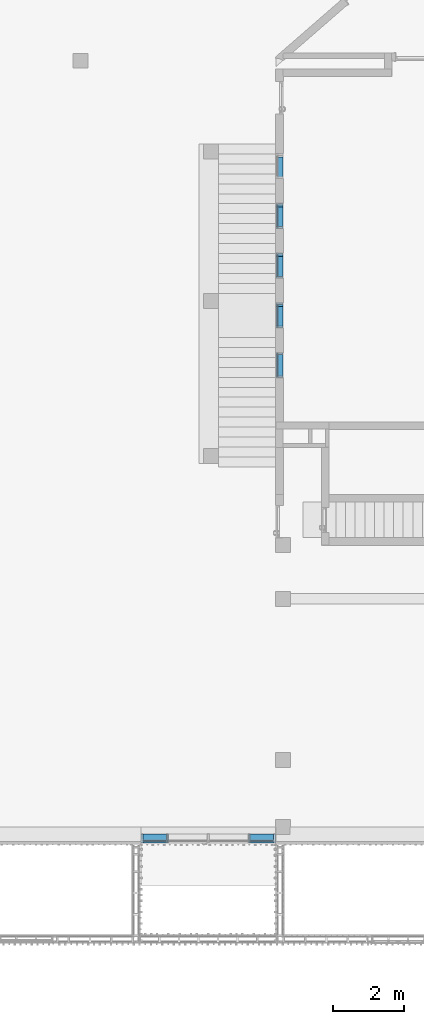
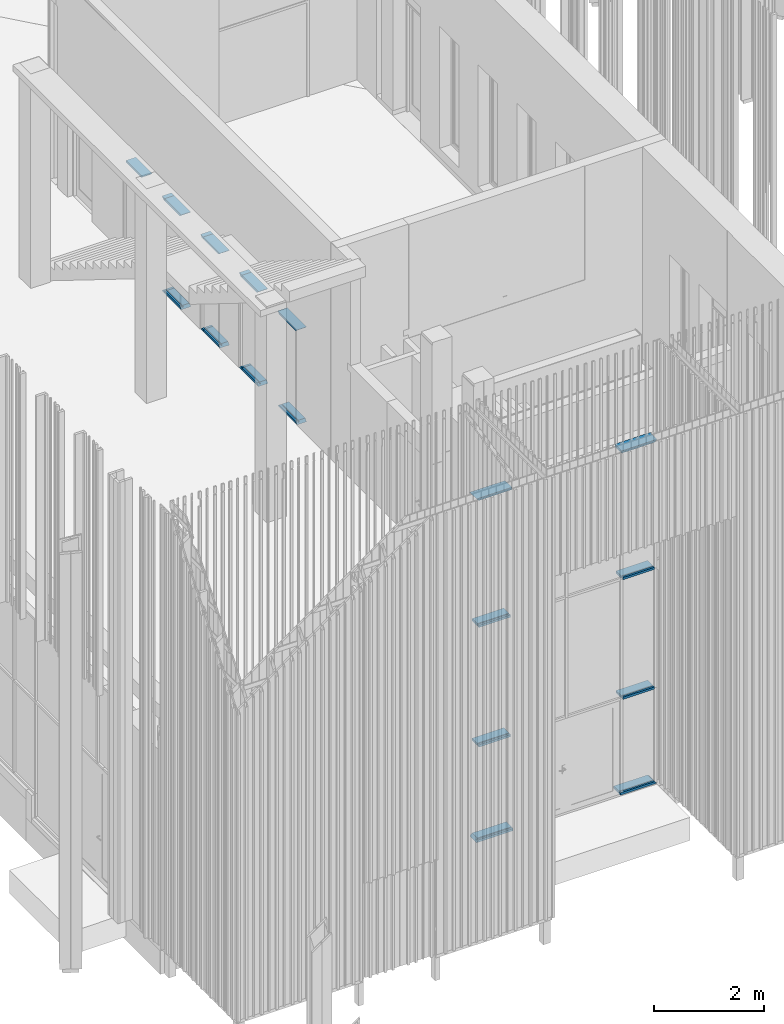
# One storey, part 64 of 390: 23 discrete accessories, 6 elements without a shape of their own.
"""IFC2X3 building model written with IfcOpenShell, lengths in millimetres."""

from ifc_helpers import new_model, entity, si_unit, converted_unit, derived_unit, money_unit, direction, frame, origin_with_axes, place, context, subcontext, project, spatial, polyline, outline, extrude, clip, halfspace, material, material_list, type_object, element, aggregate, save


model = new_model("IFC2X3")

# Units and contexts
model_context = context("Model", 3, precision=1e-05, world=origin_with_axes(), true_north=direction((0.0, 1.0)))
body_context = subcontext(model_context, "Body", "Model", "MODEL_VIEW")
ifc_project = project(units=[si_unit("LENGTHUNIT", "METRE", prefix="MILLI"), si_unit("AREAUNIT", "SQUARE_METRE"), si_unit("VOLUMEUNIT", "CUBIC_METRE"), converted_unit("PLANEANGLEUNIT", "DEGREE", entity("IfcPlaneAngleMeasure", 0.0174532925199), si_unit("PLANEANGLEUNIT", "RADIAN"), dimensions=[0, 0, 0, 0, 0, 0, 0]), si_unit("SOLIDANGLEUNIT", "STERADIAN"), money_unit("EUR"), converted_unit("TIMEUNIT", "Year", entity("IfcTimeMeasure", 31556926.0), si_unit("TIMEUNIT", "SECOND"), dimensions=[0, 0, 1, 0, 0, 0, 0]), si_unit("MASSUNIT", "GRAM", prefix="KILO"), si_unit("THERMODYNAMICTEMPERATUREUNIT", "DEGREE_CELSIUS"), si_unit("LUMINOUSINTENSITYUNIT", "LUMEN"), si_unit("ENERGYUNIT", "JOULE", prefix="MEGA"), derived_unit("THERMALCONDUCTANCEUNIT", [(si_unit("POWERUNIT", "WATT"), 1), (si_unit("LENGTHUNIT", "METRE"), -1), (si_unit("THERMODYNAMICTEMPERATUREUNIT", "KELVIN"), -1)]), derived_unit("SPECIFICHEATCAPACITYUNIT", [(si_unit("ENERGYUNIT", "JOULE"), 1), (si_unit("MASSUNIT", "GRAM", prefix="KILO"), -1), (si_unit("THERMODYNAMICTEMPERATUREUNIT", "KELVIN"), -1)]), derived_unit("MASSDENSITYUNIT", [(si_unit("MASSUNIT", "GRAM", prefix="KILO"), 1), (si_unit("VOLUMEUNIT", "CUBIC_METRE"), -1)])], contexts=[model_context])

# Site, building, storey
site_placement = place(None, origin_with_axes())
site = spatial("IfcSite", under=ifc_project, at=site_placement, Name="Site", CompositionType="ELEMENT")
building_placement = place(site_placement, origin_with_axes())
building = spatial("IfcBuilding", under=site, at=building_placement, Name="Building", CompositionType="ELEMENT")
storey_placement = place(building_placement, origin_with_axes())
storey = spatial("IfcBuildingStorey", under=building, at=storey_placement, Name="1 korrus", CompositionType="ELEMENT", Elevation=0.0)

# Curtain wall, discrete accessories
curtain_wall_type_1 = type_object("IfcCurtainWallType", Name="KS-17", PredefinedType="NOTDEFINED")
curtain_wall_1_placement = place(storey_placement, frame((132939.999926, 58740.0585192, 0.0), z_axis=(0.0, 0.0, 1.0), x_axis=(1.0, 0.0, 0.0)))
curtain_wall_1 = element("IfcCurtainWall", 1, at=curtain_wall_1_placement, inside=storey, type_object=curtain_wall_type_1, Name="Klaas-sein")
ifc_material = material(Name="Aluminium MUST")
ifc_material_list_1 = material_list([ifc_material, ifc_material, ifc_material])
discrete_accessory_type_1 = type_object("IfcDiscreteAccessoryType", Name="50 x 200")
discrete_accessory_1_placement = place(curtain_wall_1_placement, frame((1.81898940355e-09, -349.999988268, 2100.0), z_axis=(0.0, 1.0, 0.0), x_axis=(0.0, 0.0, -1.0)))
discrete_accessory_1 = element("IfcDiscreteAccessory", 2, at=discrete_accessory_1_placement, type_object=discrete_accessory_type_1, material=ifc_material_list_1, Name="KS-17 profiil", context=body_context, shape_type="Clipping", body=[
    clip(clip(extrude(outline(polyline([(9.99999999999, 25.0), (-10.0, 25.0), (-9.99999999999, 0.0), (9.99999999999, 0.0), (9.99999999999, 25.0)])), frame((0.0, 0.0, 0.0), z_axis=(0.0, 0.0, 1.0), x_axis=(0.0, -1.0, 0.0)), (0.0, 0.0, 1.0), 699.999990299), halfspace(frame((349.99999515, 0.0, 349.99999515), z_axis=(-0.707106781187, 0.0, -0.707106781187), x_axis=(0.0, 1.0, 0.0)), True)), halfspace(frame((0.0, 0.0, 0.0), z_axis=(-0.707106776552, 0.0, 0.707106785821), x_axis=(0.0, -1.0, 0.0)), True)),
    clip(clip(extrude(outline(polyline([(150.0, 50.0), (9.99999999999, 50.0), (9.99999999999, 0.0), (150.0, 0.0), (150.0, 50.0)])), frame((0.0, 0.0, 0.0), z_axis=(0.0, 0.0, 1.0), x_axis=(0.0, -1.0, 0.0)), (0.0, 0.0, 1.0), 699.999990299), halfspace(frame((349.99999515, 0.0, 349.99999515), z_axis=(-0.707106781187, 0.0, -0.707106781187), x_axis=(0.0, 1.0, 0.0)), True)), halfspace(frame((0.0, 0.0, 0.0), z_axis=(-0.707106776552, 0.0, 0.707106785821), x_axis=(0.0, -1.0, 0.0)), True)),
    clip(clip(extrude(outline(polyline([(-50.0, 0.0), (-9.99999999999, 0.0), (-9.99999999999, 50.0), (-50.0, 50.0), (-50.0, 0.0)])), frame((0.0, 0.0, 0.0), z_axis=(0.0, 0.0, 1.0), x_axis=(0.0, -1.0, 0.0)), (0.0, 0.0, 1.0), 699.999990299), halfspace(frame((349.99999515, 0.0, 349.99999515), z_axis=(-0.707106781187, 0.0, -0.707106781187), x_axis=(0.0, 1.0, 0.0)), True)), halfspace(frame((0.0, 0.0, 0.0), z_axis=(-0.707106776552, 0.0, 0.707106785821), x_axis=(0.0, -1.0, 0.0)), True)),
])
discrete_accessory_2_placement = place(curtain_wall_1_placement, frame((-1.81898940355e-09, 350.000002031, 0.0), z_axis=(0.0, -1.0, 0.0), x_axis=(0.0, 0.0, 1.0)))
discrete_accessory_2 = element("IfcDiscreteAccessory", 3, at=discrete_accessory_2_placement, type_object=discrete_accessory_type_1, material=ifc_material_list_1, Name="KS-17 profiil", context=body_context, shape_type="Clipping", body=[
    clip(clip(extrude(outline(polyline([(-10.0, -25.0), (9.99999999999, -25.0), (9.99999999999, 0.0), (-9.99999999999, 0.0), (-10.0, -25.0)])), frame((0.0, 0.0, 0.0), z_axis=(0.0, 0.0, 1.0), x_axis=(0.0, 1.0, 0.0)), (0.0, 0.0, 1.0), 700.000017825), halfspace(frame((350.000008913, 0.0, 350.000004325), z_axis=(-0.707106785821, 0.0, -0.707106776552), x_axis=(0.0, 1.0, 0.0)), True)), halfspace(frame((0.0, 0.0, 0.0), z_axis=(-0.707106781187, 0.0, 0.707106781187), x_axis=(0.0, -1.0, 0.0)), True)),
    clip(clip(extrude(outline(polyline([(-150.0, -50.0), (-9.99999999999, -50.0), (-9.99999999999, 0.0), (-150.0, 0.0), (-150.0, -50.0)])), frame((0.0, 0.0, 0.0), z_axis=(0.0, 0.0, 1.0), x_axis=(0.0, 1.0, 0.0)), (0.0, 0.0, 1.0), 700.000017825), halfspace(frame((350.000008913, 0.0, 350.000004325), z_axis=(-0.707106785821, 0.0, -0.707106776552), x_axis=(0.0, 1.0, 0.0)), True)), halfspace(frame((0.0, 0.0, 0.0), z_axis=(-0.707106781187, 0.0, 0.707106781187), x_axis=(0.0, -1.0, 0.0)), True)),
    clip(clip(extrude(outline(polyline([(50.0, 0.0), (9.99999999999, 0.0), (9.99999999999, -50.0), (50.0, -50.0), (50.0, 0.0)])), frame((0.0, 0.0, 0.0), z_axis=(0.0, 0.0, 1.0), x_axis=(0.0, 1.0, 0.0)), (0.0, 0.0, 1.0), 700.000017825), halfspace(frame((350.000008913, 0.0, 350.000004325), z_axis=(-0.707106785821, 0.0, -0.707106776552), x_axis=(0.0, 1.0, 0.0)), True)), halfspace(frame((0.0, 0.0, 0.0), z_axis=(-0.707106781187, 0.0, 0.707106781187), x_axis=(0.0, -1.0, 0.0)), True)),
])
aggregate(curtain_wall_1, [discrete_accessory_1, discrete_accessory_2])

curtain_wall_2_placement = place(storey_placement, frame((132939.999926, 63023.3918775, 0.0), z_axis=(0.0, 0.0, 1.0), x_axis=(1.0, 0.0, 0.0)))
curtain_wall_2 = element("IfcCurtainWall", 4, at=curtain_wall_2_placement, inside=storey, type_object=curtain_wall_type_1, Name="Klaas-sein")
discrete_accessory_3_placement = place(curtain_wall_2_placement, frame((2.245315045e-09, -433.333311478, 2100.0), z_axis=(0.0, 1.0, 0.0), x_axis=(0.0, 0.0, -1.0)))
discrete_accessory_3 = element("IfcDiscreteAccessory", 5, at=discrete_accessory_3_placement, type_object=discrete_accessory_type_1, material=ifc_material_list_1, Name="KS-17 profiil", context=body_context, shape_type="Clipping", body=[
    clip(extrude(outline(polyline([(9.99999999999, 25.0), (-9.99999999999, 25.0), (-9.99999999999, 0.0), (9.99999999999, 0.0), (9.99999999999, 25.0)])), frame((0.0, 0.0, 0.0), z_axis=(0.0, 0.0, 1.0), x_axis=(0.0, -1.0, 0.0)), (0.0, 0.0, 1.0), 599.999955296), halfspace(frame((0.0, 0.0, 0.0), z_axis=(-0.707106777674, 0.0, 0.707106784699), x_axis=(0.0, -1.0, 0.0)), True)),
    clip(extrude(outline(polyline([(150.0, 50.0), (9.99999999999, 50.0), (9.99999999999, 0.0), (150.0, 0.0), (150.0, 50.0)])), frame((0.0, 0.0, 0.0), z_axis=(0.0, 0.0, 1.0), x_axis=(0.0, -1.0, 0.0)), (0.0, 0.0, 1.0), 599.999955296), halfspace(frame((0.0, 0.0, 0.0), z_axis=(-0.707106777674, 0.0, 0.707106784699), x_axis=(0.0, -1.0, 0.0)), True)),
    clip(extrude(outline(polyline([(-50.0, 0.0), (-9.99999999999, 0.0), (-9.99999999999, 50.0), (-50.0, 50.0), (-50.0, 0.0)])), frame((0.0, 0.0, 0.0), z_axis=(0.0, 0.0, 1.0), x_axis=(0.0, -1.0, 0.0)), (0.0, 0.0, 1.0), 599.999955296), halfspace(frame((0.0, 0.0, 0.0), z_axis=(-0.707106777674, 0.0, 0.707106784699), x_axis=(0.0, -1.0, 0.0)), True)),
])
discrete_accessory_4_placement = place(curtain_wall_2_placement, frame((-8.81072992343e-10, 166.666643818, 0.0), z_axis=(0.0, -1.0, 0.0), x_axis=(0.0, 0.0, 1.0)))
discrete_accessory_4 = element("IfcDiscreteAccessory", 6, at=discrete_accessory_4_placement, type_object=discrete_accessory_type_1, material=ifc_material_list_1, Name="KS-17 profiil", context=body_context, shape_type="Clipping", body=[
    clip(extrude(outline(polyline([(-9.99999999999, -25.0), (10.0, -25.0), (9.99999999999, 0.0), (-9.99999999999, 0.0), (-9.99999999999, -25.0)])), frame((0.0, 0.0, 0.0), z_axis=(0.0, 0.0, 1.0), x_axis=(0.0, 1.0, 0.0)), (0.0, 0.0, 1.0), 599.999976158), halfspace(frame((299.999988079, 0.0, 299.999985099), z_axis=(-0.707106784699, 0.0, -0.707106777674), x_axis=(0.0, 1.0, 0.0)), True)),
    clip(extrude(outline(polyline([(-150.0, -50.0), (-9.99999999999, -50.0), (-9.99999999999, 0.0), (-150.0, 0.0), (-150.0, -50.0)])), frame((0.0, 0.0, 0.0), z_axis=(0.0, 0.0, 1.0), x_axis=(0.0, 1.0, 0.0)), (0.0, 0.0, 1.0), 599.999976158), halfspace(frame((299.999988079, 0.0, 299.999985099), z_axis=(-0.707106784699, 0.0, -0.707106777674), x_axis=(0.0, 1.0, 0.0)), True)),
    clip(extrude(outline(polyline([(50.0, 0.0), (9.99999999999, 0.0), (9.99999999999, -50.0), (50.0, -50.0), (50.0, 0.0)])), frame((0.0, 0.0, 0.0), z_axis=(0.0, 0.0, 1.0), x_axis=(0.0, 1.0, 0.0)), (0.0, 0.0, 1.0), 599.999976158), halfspace(frame((299.999988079, 0.0, 299.999985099), z_axis=(-0.707106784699, 0.0, -0.707106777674), x_axis=(0.0, 1.0, 0.0)), True)),
])
discrete_accessory_5_placement = place(curtain_wall_2_placement, frame((-8.81072992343e-10, 166.666643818, 2100.0), z_axis=(0.0, 1.0, 0.0), x_axis=(0.0, 0.0, -1.0)))
discrete_accessory_5 = element("IfcDiscreteAccessory", 7, at=discrete_accessory_5_placement, type_object=discrete_accessory_type_1, material=ifc_material_list_1, Name="KS-17 profiil", context=body_context, shape_type="Clipping", body=[
    clip(extrude(outline(polyline([(10.0, 25.0), (-9.99999999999, 25.0), (-9.99999999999, 0.0), (9.99999999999, 0.0), (10.0, 25.0)])), frame((0.0, 0.0, 0.0), z_axis=(0.0, 0.0, 1.0), x_axis=(0.0, -1.0, 0.0)), (0.0, 0.0, 1.0), 100.000044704), halfspace(frame((50.0000223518, 0.0, 50.0000218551), z_axis=(-0.707106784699, 0.0, -0.707106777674), x_axis=(0.0, 1.0, 0.0)), True)),
    clip(extrude(outline(polyline([(150.0, 50.0), (9.99999999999, 50.0), (9.99999999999, 0.0), (150.0, 0.0), (150.0, 50.0)])), frame((0.0, 0.0, 0.0), z_axis=(0.0, 0.0, 1.0), x_axis=(0.0, -1.0, 0.0)), (0.0, 0.0, 1.0), 100.000044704), halfspace(frame((50.0000223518, 0.0, 50.0000218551), z_axis=(-0.707106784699, 0.0, -0.707106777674), x_axis=(0.0, 1.0, 0.0)), True)),
    clip(extrude(outline(polyline([(-50.0, 0.0), (-9.99999999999, 0.0), (-9.99999999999, 50.0), (-50.0, 50.0), (-50.0, 0.0)])), frame((0.0, 0.0, 0.0), z_axis=(0.0, 0.0, 1.0), x_axis=(0.0, -1.0, 0.0)), (0.0, 0.0, 1.0), 100.000044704), halfspace(frame((50.0000223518, 0.0, 50.0000218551), z_axis=(-0.707106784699, 0.0, -0.707106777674), x_axis=(0.0, 1.0, 0.0)), True)),
])
discrete_accessory_6_placement = place(curtain_wall_2_placement, frame((-1.39266376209e-09, 266.66666766, 0.0), z_axis=(0.0, -1.0, 0.0), x_axis=(0.0, 0.0, 1.0)))
discrete_accessory_6 = element("IfcDiscreteAccessory", 8, at=discrete_accessory_6_placement, type_object=discrete_accessory_type_1, material=ifc_material_list_1, Name="KS-17 profiil", context=body_context, shape_type="Clipping", body=[
    clip(extrude(outline(polyline([(-9.99999999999, -25.0), (9.99999999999, -25.0), (9.99999999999, 0.0), (-9.99999999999, 0.0), (-9.99999999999, -25.0)])), frame((0.0, 0.0, 0.0), z_axis=(0.0, 0.0, 1.0), x_axis=(0.0, 1.0, 0.0)), (0.0, 0.0, 1.0), 100.000023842), halfspace(frame((0.0, 0.0, 0.0), z_axis=(-0.707106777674, 0.0, 0.707106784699), x_axis=(0.0, -1.0, 0.0)), True)),
    clip(extrude(outline(polyline([(-150.0, -50.0), (-9.99999999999, -50.0), (-9.99999999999, 0.0), (-150.0, 0.0), (-150.0, -50.0)])), frame((0.0, 0.0, 0.0), z_axis=(0.0, 0.0, 1.0), x_axis=(0.0, 1.0, 0.0)), (0.0, 0.0, 1.0), 100.000023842), halfspace(frame((0.0, 0.0, 0.0), z_axis=(-0.707106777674, 0.0, 0.707106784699), x_axis=(0.0, -1.0, 0.0)), True)),
    clip(extrude(outline(polyline([(50.0, 0.0), (9.99999999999, 0.0), (9.99999999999, -50.0), (50.0, -50.0), (50.0, 0.0)])), frame((0.0, 0.0, 0.0), z_axis=(0.0, 0.0, 1.0), x_axis=(0.0, 1.0, 0.0)), (0.0, 0.0, 1.0), 100.000023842), halfspace(frame((0.0, 0.0, 0.0), z_axis=(-0.707106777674, 0.0, 0.707106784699), x_axis=(0.0, -1.0, 0.0)), True)),
])
aggregate(curtain_wall_2, [discrete_accessory_3, discrete_accessory_4, discrete_accessory_5, discrete_accessory_6])

curtain_wall_3_placement = place(storey_placement, frame((132939.999926, 61623.3918775, 0.0), z_axis=(0.0, 0.0, 1.0), x_axis=(1.0, 0.0, 0.0)))
curtain_wall_3 = element("IfcCurtainWall", 9, at=curtain_wall_3_placement, inside=storey, type_object=curtain_wall_type_1, Name="Klaas-sein")
discrete_accessory_7_placement = place(curtain_wall_3_placement, frame((2.245315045e-09, -433.333311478, 2100.0), z_axis=(0.0, 1.0, 0.0), x_axis=(0.0, 0.0, -1.0)))
discrete_accessory_7 = element("IfcDiscreteAccessory", 10, at=discrete_accessory_7_placement, type_object=discrete_accessory_type_1, material=ifc_material_list_1, Name="KS-17 profiil", context=body_context, shape_type="Clipping", body=[
    clip(extrude(outline(polyline([(9.99999999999, 25.0), (-9.99999999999, 25.0), (-9.99999999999, 0.0), (9.99999999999, 0.0), (9.99999999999, 25.0)])), frame((0.0, 0.0, 0.0), z_axis=(0.0, 0.0, 1.0), x_axis=(0.0, -1.0, 0.0)), (0.0, 0.0, 1.0), 599.999955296), halfspace(frame((0.0, 0.0, 0.0), z_axis=(-0.707106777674, 0.0, 0.707106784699), x_axis=(0.0, -1.0, 0.0)), True)),
    clip(extrude(outline(polyline([(150.0, 50.0), (9.99999999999, 50.0), (9.99999999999, 0.0), (150.0, 0.0), (150.0, 50.0)])), frame((0.0, 0.0, 0.0), z_axis=(0.0, 0.0, 1.0), x_axis=(0.0, -1.0, 0.0)), (0.0, 0.0, 1.0), 599.999955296), halfspace(frame((0.0, 0.0, 0.0), z_axis=(-0.707106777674, 0.0, 0.707106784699), x_axis=(0.0, -1.0, 0.0)), True)),
    clip(extrude(outline(polyline([(-50.0, 0.0), (-9.99999999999, 0.0), (-9.99999999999, 50.0), (-50.0, 50.0), (-50.0, 0.0)])), frame((0.0, 0.0, 0.0), z_axis=(0.0, 0.0, 1.0), x_axis=(0.0, -1.0, 0.0)), (0.0, 0.0, 1.0), 599.999955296), halfspace(frame((0.0, 0.0, 0.0), z_axis=(-0.707106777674, 0.0, 0.707106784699), x_axis=(0.0, -1.0, 0.0)), True)),
])
discrete_accessory_8_placement = place(curtain_wall_3_placement, frame((-8.81072992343e-10, 166.666643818, 0.0), z_axis=(0.0, -1.0, 0.0), x_axis=(0.0, 0.0, 1.0)))
discrete_accessory_8 = element("IfcDiscreteAccessory", 11, at=discrete_accessory_8_placement, type_object=discrete_accessory_type_1, material=ifc_material_list_1, Name="KS-17 profiil", context=body_context, shape_type="Clipping", body=[
    clip(extrude(outline(polyline([(-10.0, -25.0), (9.99999999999, -25.0), (9.99999999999, 0.0), (-9.99999999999, 0.0), (-10.0, -25.0)])), frame((0.0, 0.0, 0.0), z_axis=(0.0, 0.0, 1.0), x_axis=(0.0, 1.0, 0.0)), (0.0, 0.0, 1.0), 599.999976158), halfspace(frame((299.999988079, 0.0, 299.999985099), z_axis=(-0.707106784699, 0.0, -0.707106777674), x_axis=(0.0, 1.0, 0.0)), True)),
    clip(extrude(outline(polyline([(-150.0, -50.0), (-9.99999999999, -50.0), (-9.99999999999, 0.0), (-150.0, 0.0), (-150.0, -50.0)])), frame((0.0, 0.0, 0.0), z_axis=(0.0, 0.0, 1.0), x_axis=(0.0, 1.0, 0.0)), (0.0, 0.0, 1.0), 599.999976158), halfspace(frame((299.999988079, 0.0, 299.999985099), z_axis=(-0.707106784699, 0.0, -0.707106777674), x_axis=(0.0, 1.0, 0.0)), True)),
    clip(extrude(outline(polyline([(50.0, 0.0), (9.99999999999, 0.0), (9.99999999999, -50.0), (50.0, -50.0), (50.0, 0.0)])), frame((0.0, 0.0, 0.0), z_axis=(0.0, 0.0, 1.0), x_axis=(0.0, 1.0, 0.0)), (0.0, 0.0, 1.0), 599.999976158), halfspace(frame((299.999988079, 0.0, 299.999985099), z_axis=(-0.707106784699, 0.0, -0.707106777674), x_axis=(0.0, 1.0, 0.0)), True)),
])
discrete_accessory_9_placement = place(curtain_wall_3_placement, frame((-8.81072992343e-10, 166.666643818, 2100.0), z_axis=(0.0, 1.0, 0.0), x_axis=(0.0, 0.0, -1.0)))
discrete_accessory_9 = element("IfcDiscreteAccessory", 12, at=discrete_accessory_9_placement, type_object=discrete_accessory_type_1, material=ifc_material_list_1, Name="KS-17 profiil", context=body_context, shape_type="Clipping", body=[
    clip(extrude(outline(polyline([(10.0, 25.0), (-9.99999999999, 25.0), (-9.99999999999, 0.0), (9.99999999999, 0.0), (10.0, 25.0)])), frame((0.0, 0.0, 0.0), z_axis=(0.0, 0.0, 1.0), x_axis=(0.0, -1.0, 0.0)), (0.0, 0.0, 1.0), 100.000044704), halfspace(frame((50.0000223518, 0.0, 50.0000218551), z_axis=(-0.707106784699, 0.0, -0.707106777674), x_axis=(0.0, 1.0, 0.0)), True)),
    clip(extrude(outline(polyline([(150.0, 50.0), (9.99999999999, 50.0), (9.99999999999, 0.0), (150.0, 0.0), (150.0, 50.0)])), frame((0.0, 0.0, 0.0), z_axis=(0.0, 0.0, 1.0), x_axis=(0.0, -1.0, 0.0)), (0.0, 0.0, 1.0), 100.000044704), halfspace(frame((50.0000223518, 0.0, 50.0000218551), z_axis=(-0.707106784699, 0.0, -0.707106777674), x_axis=(0.0, 1.0, 0.0)), True)),
    clip(extrude(outline(polyline([(-50.0, 0.0), (-9.99999999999, 0.0), (-9.99999999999, 50.0), (-50.0, 50.0), (-50.0, 0.0)])), frame((0.0, 0.0, 0.0), z_axis=(0.0, 0.0, 1.0), x_axis=(0.0, -1.0, 0.0)), (0.0, 0.0, 1.0), 100.000044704), halfspace(frame((50.0000223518, 0.0, 50.0000218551), z_axis=(-0.707106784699, 0.0, -0.707106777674), x_axis=(0.0, 1.0, 0.0)), True)),
])
discrete_accessory_10_placement = place(curtain_wall_3_placement, frame((-1.39266376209e-09, 266.66666766, 0.0), z_axis=(0.0, -1.0, 0.0), x_axis=(0.0, 0.0, 1.0)))
discrete_accessory_10 = element("IfcDiscreteAccessory", 13, at=discrete_accessory_10_placement, type_object=discrete_accessory_type_1, material=ifc_material_list_1, Name="KS-17 profiil", context=body_context, shape_type="Clipping", body=[
    clip(extrude(outline(polyline([(-9.99999999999, -25.0), (9.99999999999, -25.0), (9.99999999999, 0.0), (-9.99999999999, 0.0), (-9.99999999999, -25.0)])), frame((0.0, 0.0, 0.0), z_axis=(0.0, 0.0, 1.0), x_axis=(0.0, 1.0, 0.0)), (0.0, 0.0, 1.0), 100.000023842), halfspace(frame((0.0, 0.0, 0.0), z_axis=(-0.707106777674, 0.0, 0.707106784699), x_axis=(0.0, -1.0, 0.0)), True)),
    clip(extrude(outline(polyline([(-150.0, -50.0), (-9.99999999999, -50.0), (-9.99999999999, 0.0), (-150.0, 0.0), (-150.0, -50.0)])), frame((0.0, 0.0, 0.0), z_axis=(0.0, 0.0, 1.0), x_axis=(0.0, 1.0, 0.0)), (0.0, 0.0, 1.0), 100.000023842), halfspace(frame((0.0, 0.0, 0.0), z_axis=(-0.707106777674, 0.0, 0.707106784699), x_axis=(0.0, -1.0, 0.0)), True)),
    clip(extrude(outline(polyline([(50.0, 0.0), (9.99999999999, 0.0), (9.99999999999, -50.0), (50.0, -50.0), (50.0, 0.0)])), frame((0.0, 0.0, 0.0), z_axis=(0.0, 0.0, 1.0), x_axis=(0.0, 1.0, 0.0)), (0.0, 0.0, 1.0), 100.000023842), halfspace(frame((0.0, 0.0, 0.0), z_axis=(-0.707106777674, 0.0, 0.707106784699), x_axis=(0.0, -1.0, 0.0)), True)),
])
aggregate(curtain_wall_3, [discrete_accessory_7, discrete_accessory_8, discrete_accessory_9, discrete_accessory_10])

curtain_wall_4_placement = place(storey_placement, frame((132939.999926, 60223.3918775, 0.0), z_axis=(0.0, 0.0, 1.0), x_axis=(1.0, 0.0, 0.0)))
curtain_wall_4 = element("IfcCurtainWall", 14, at=curtain_wall_4_placement, inside=storey, type_object=curtain_wall_type_1, Name="Klaas-sein")
discrete_accessory_11_placement = place(curtain_wall_4_placement, frame((2.245315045e-09, -433.333311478, 2100.0), z_axis=(0.0, 1.0, 0.0), x_axis=(0.0, 0.0, -1.0)))
discrete_accessory_11 = element("IfcDiscreteAccessory", 15, at=discrete_accessory_11_placement, type_object=discrete_accessory_type_1, material=ifc_material_list_1, Name="KS-17 profiil", context=body_context, shape_type="Clipping", body=[
    clip(extrude(outline(polyline([(9.99999999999, 25.0), (-9.99999999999, 25.0), (-9.99999999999, 0.0), (9.99999999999, 0.0), (9.99999999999, 25.0)])), frame((0.0, 0.0, 0.0), z_axis=(0.0, 0.0, 1.0), x_axis=(0.0, -1.0, 0.0)), (0.0, 0.0, 1.0), 599.999955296), halfspace(frame((0.0, 0.0, 0.0), z_axis=(-0.707106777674, 0.0, 0.707106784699), x_axis=(0.0, -1.0, 0.0)), True)),
    clip(extrude(outline(polyline([(150.0, 50.0), (9.99999999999, 50.0), (9.99999999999, 0.0), (150.0, 0.0), (150.0, 50.0)])), frame((0.0, 0.0, 0.0), z_axis=(0.0, 0.0, 1.0), x_axis=(0.0, -1.0, 0.0)), (0.0, 0.0, 1.0), 599.999955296), halfspace(frame((0.0, 0.0, 0.0), z_axis=(-0.707106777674, 0.0, 0.707106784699), x_axis=(0.0, -1.0, 0.0)), True)),
    clip(extrude(outline(polyline([(-50.0, 0.0), (-9.99999999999, 0.0), (-9.99999999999, 50.0), (-50.0, 50.0), (-50.0, 0.0)])), frame((0.0, 0.0, 0.0), z_axis=(0.0, 0.0, 1.0), x_axis=(0.0, -1.0, 0.0)), (0.0, 0.0, 1.0), 599.999955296), halfspace(frame((0.0, 0.0, 0.0), z_axis=(-0.707106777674, 0.0, 0.707106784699), x_axis=(0.0, -1.0, 0.0)), True)),
])
discrete_accessory_12_placement = place(curtain_wall_4_placement, frame((-8.81072992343e-10, 166.666643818, 0.0), z_axis=(0.0, -1.0, 0.0), x_axis=(0.0, 0.0, 1.0)))
discrete_accessory_12 = element("IfcDiscreteAccessory", 16, at=discrete_accessory_12_placement, type_object=discrete_accessory_type_1, material=ifc_material_list_1, Name="KS-17 profiil", context=body_context, shape_type="Clipping", body=[
    clip(extrude(outline(polyline([(-9.99999999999, -25.0), (10.0, -25.0), (9.99999999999, 0.0), (-9.99999999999, 0.0), (-9.99999999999, -25.0)])), frame((0.0, 0.0, 0.0), z_axis=(0.0, 0.0, 1.0), x_axis=(0.0, 1.0, 0.0)), (0.0, 0.0, 1.0), 599.999976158), halfspace(frame((299.999988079, 0.0, 299.999985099), z_axis=(-0.707106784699, 0.0, -0.707106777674), x_axis=(0.0, 1.0, 0.0)), True)),
    clip(extrude(outline(polyline([(-150.0, -50.0), (-9.99999999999, -50.0), (-9.99999999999, 0.0), (-150.0, 0.0), (-150.0, -50.0)])), frame((0.0, 0.0, 0.0), z_axis=(0.0, 0.0, 1.0), x_axis=(0.0, 1.0, 0.0)), (0.0, 0.0, 1.0), 599.999976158), halfspace(frame((299.999988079, 0.0, 299.999985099), z_axis=(-0.707106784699, 0.0, -0.707106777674), x_axis=(0.0, 1.0, 0.0)), True)),
    clip(extrude(outline(polyline([(50.0, 0.0), (9.99999999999, 0.0), (9.99999999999, -50.0), (50.0, -50.0), (50.0, 0.0)])), frame((0.0, 0.0, 0.0), z_axis=(0.0, 0.0, 1.0), x_axis=(0.0, 1.0, 0.0)), (0.0, 0.0, 1.0), 599.999976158), halfspace(frame((299.999988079, 0.0, 299.999985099), z_axis=(-0.707106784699, 0.0, -0.707106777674), x_axis=(0.0, 1.0, 0.0)), True)),
])
discrete_accessory_13_placement = place(curtain_wall_4_placement, frame((-8.81072992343e-10, 166.666643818, 2100.0), z_axis=(0.0, 1.0, 0.0), x_axis=(0.0, 0.0, -1.0)))
discrete_accessory_13 = element("IfcDiscreteAccessory", 17, at=discrete_accessory_13_placement, type_object=discrete_accessory_type_1, material=ifc_material_list_1, Name="KS-17 profiil", context=body_context, shape_type="Clipping", body=[
    clip(extrude(outline(polyline([(10.0, 25.0), (-9.99999999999, 25.0), (-9.99999999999, 0.0), (9.99999999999, 0.0), (10.0, 25.0)])), frame((0.0, 0.0, 0.0), z_axis=(0.0, 0.0, 1.0), x_axis=(0.0, -1.0, 0.0)), (0.0, 0.0, 1.0), 100.000044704), halfspace(frame((50.0000223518, 0.0, 50.0000218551), z_axis=(-0.707106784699, 0.0, -0.707106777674), x_axis=(0.0, 1.0, 0.0)), True)),
    clip(extrude(outline(polyline([(150.0, 50.0), (9.99999999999, 50.0), (9.99999999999, 0.0), (150.0, 0.0), (150.0, 50.0)])), frame((0.0, 0.0, 0.0), z_axis=(0.0, 0.0, 1.0), x_axis=(0.0, -1.0, 0.0)), (0.0, 0.0, 1.0), 100.000044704), halfspace(frame((50.0000223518, 0.0, 50.0000218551), z_axis=(-0.707106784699, 0.0, -0.707106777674), x_axis=(0.0, 1.0, 0.0)), True)),
    clip(extrude(outline(polyline([(-50.0, 0.0), (-9.99999999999, 0.0), (-9.99999999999, 50.0), (-50.0, 50.0), (-50.0, 0.0)])), frame((0.0, 0.0, 0.0), z_axis=(0.0, 0.0, 1.0), x_axis=(0.0, -1.0, 0.0)), (0.0, 0.0, 1.0), 100.000044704), halfspace(frame((50.0000223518, 0.0, 50.0000218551), z_axis=(-0.707106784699, 0.0, -0.707106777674), x_axis=(0.0, 1.0, 0.0)), True)),
])
discrete_accessory_14_placement = place(curtain_wall_4_placement, frame((-1.39266376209e-09, 266.66666766, 0.0), z_axis=(0.0, -1.0, 0.0), x_axis=(0.0, 0.0, 1.0)))
discrete_accessory_14 = element("IfcDiscreteAccessory", 18, at=discrete_accessory_14_placement, type_object=discrete_accessory_type_1, material=ifc_material_list_1, Name="KS-17 profiil", context=body_context, shape_type="Clipping", body=[
    clip(extrude(outline(polyline([(-9.99999999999, -25.0), (9.99999999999, -25.0), (9.99999999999, 0.0), (-9.99999999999, 0.0), (-9.99999999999, -25.0)])), frame((0.0, 0.0, 0.0), z_axis=(0.0, 0.0, 1.0), x_axis=(0.0, 1.0, 0.0)), (0.0, 0.0, 1.0), 100.000023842), halfspace(frame((0.0, 0.0, 0.0), z_axis=(-0.707106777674, 0.0, 0.707106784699), x_axis=(0.0, -1.0, 0.0)), True)),
    clip(extrude(outline(polyline([(-150.0, -50.0), (-9.99999999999, -50.0), (-9.99999999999, 0.0), (-150.0, 0.0), (-150.0, -50.0)])), frame((0.0, 0.0, 0.0), z_axis=(0.0, 0.0, 1.0), x_axis=(0.0, 1.0, 0.0)), (0.0, 0.0, 1.0), 100.000023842), halfspace(frame((0.0, 0.0, 0.0), z_axis=(-0.707106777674, 0.0, 0.707106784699), x_axis=(0.0, -1.0, 0.0)), True)),
    clip(extrude(outline(polyline([(50.0, 0.0), (9.99999999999, 0.0), (9.99999999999, -50.0), (50.0, -50.0), (50.0, 0.0)])), frame((0.0, 0.0, 0.0), z_axis=(0.0, 0.0, 1.0), x_axis=(0.0, 1.0, 0.0)), (0.0, 0.0, 1.0), 100.000023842), halfspace(frame((0.0, 0.0, 0.0), z_axis=(-0.707106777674, 0.0, 0.707106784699), x_axis=(0.0, -1.0, 0.0)), True)),
])
aggregate(curtain_wall_4, [discrete_accessory_11, discrete_accessory_12, discrete_accessory_13, discrete_accessory_14])

# Curtain wall, discrete accessory
curtain_wall_5_placement = place(storey_placement, frame((132939.999926, 64423.3918775, 0.0), z_axis=(0.0, 0.0, 1.0), x_axis=(1.0, 0.0, 0.0)))
curtain_wall_5 = element("IfcCurtainWall", 19, at=curtain_wall_5_placement, inside=storey, type_object=curtain_wall_type_1, Name="Klaas-sein")
discrete_accessory_15_placement = place(curtain_wall_5_placement, frame((2.245315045e-09, -433.333311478, 2100.0), z_axis=(0.0, 1.0, 0.0), x_axis=(0.0, 0.0, -1.0)))
discrete_accessory_15 = element("IfcDiscreteAccessory", 20, at=discrete_accessory_15_placement, type_object=discrete_accessory_type_1, material=ifc_material_list_1, Name="KS-17 profiil", context=body_context, shape_type="Clipping", body=[
    clip(extrude(outline(polyline([(9.99999999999, 25.0), (-9.99999999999, 25.0), (-9.99999999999, 0.0), (9.99999999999, 0.0), (9.99999999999, 25.0)])), frame((0.0, 0.0, 0.0), z_axis=(0.0, 0.0, 1.0), x_axis=(0.0, -1.0, 0.0)), (0.0, 0.0, 1.0), 599.999955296), halfspace(frame((0.0, 0.0, 0.0), z_axis=(-0.707106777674, 0.0, 0.707106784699), x_axis=(0.0, -1.0, 0.0)), True)),
    clip(extrude(outline(polyline([(150.0, 50.0), (9.99999999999, 50.0), (9.99999999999, 0.0), (150.0, 0.0), (150.0, 50.0)])), frame((0.0, 0.0, 0.0), z_axis=(0.0, 0.0, 1.0), x_axis=(0.0, -1.0, 0.0)), (0.0, 0.0, 1.0), 599.999955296), halfspace(frame((0.0, 0.0, 0.0), z_axis=(-0.707106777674, 0.0, 0.707106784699), x_axis=(0.0, -1.0, 0.0)), True)),
    clip(extrude(outline(polyline([(-50.0, 0.0), (-9.99999999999, 0.0), (-9.99999999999, 50.0), (-50.0, 50.0), (-50.0, 0.0)])), frame((0.0, 0.0, 0.0), z_axis=(0.0, 0.0, 1.0), x_axis=(0.0, -1.0, 0.0)), (0.0, 0.0, 1.0), 599.999955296), halfspace(frame((0.0, 0.0, 0.0), z_axis=(-0.707106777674, 0.0, 0.707106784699), x_axis=(0.0, -1.0, 0.0)), True)),
])
aggregate(curtain_wall_5, [discrete_accessory_15])

# Curtain wall, discrete accessories
curtain_wall_type_2 = type_object("IfcCurtainWallType", Name="KLF-13", PredefinedType="NOTDEFINED")
curtain_wall_6_placement = place(storey_placement, frame((129470.000002, 45359.9999163, 0.0), z_axis=(0.0, 0.0, 1.0), x_axis=(1.0, 0.0, 0.0)))
curtain_wall_6 = element("IfcCurtainWall", 21, at=curtain_wall_6_placement, inside=storey, type_object=curtain_wall_type_2, Name="Klaasfassaad")
discrete_accessory_type_2 = type_object("IfcDiscreteAccessoryType", Name="50 x 250")
discrete_accessory_16_placement = place(curtain_wall_6_placement, frame((-370.0, -3.63404240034e-06, 0.0), z_axis=(1.0, 9.82172661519e-09, 0.0), x_axis=(0.0, 0.0, 1.0)))
discrete_accessory_16 = element("IfcDiscreteAccessory", 22, at=discrete_accessory_16_placement, type_object=discrete_accessory_type_2, material=ifc_material, Name="KLF-13 profiil", context=body_context, shape_type="Clipping", body=[
    clip(extrude(outline(polyline([(-10.0, -25.0), (10.0, -25.0), (10.0, -50.0), (50.0, -50.0), (50.0, 0.0), (-200.0, 0.0), (-200.0, -50.0), (-10.0, -50.0), (-10.0, -25.0)])), frame((0.0, 0.0, 0.0), z_axis=(0.0, 0.0, 1.0), x_axis=(0.0, 1.0, 0.0)), (0.0, 0.0, 1.0), 765.0), halfspace(frame((0.0, 0.0, 0.0), z_axis=(-0.707106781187, 0.0, 0.707106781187), x_axis=(0.0, -1.0, 0.0)), True)),
])
ifc_material_list_2 = material_list([ifc_material, ifc_material])
discrete_accessory_17_placement = place(curtain_wall_6_placement, frame((-370.0, -3.63404240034e-06, 2125.0), z_axis=(1.0, 9.82172661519e-09, 0.0), x_axis=(0.0, 0.0, 1.0)))
discrete_accessory_17 = element("IfcDiscreteAccessory", 23, at=discrete_accessory_17_placement, type_object=discrete_accessory_type_2, material=ifc_material_list_2, Name="KLF-13 profiil", context=body_context, shape_type="SweptSolid", body=[
    extrude(outline(polyline([(-10.0, 25.0), (-200.0, 25.0), (-200.0, -25.0), (-10.0, -25.0), (-10.0, 25.0)])), frame((0.0, 0.0, 50.0), z_axis=(0.0, 0.0, 1.0), x_axis=(0.0, 1.0, 0.0)), (0.0, 0.0, 1.0), 665.0),
    extrude(outline(polyline([(10.0, 25.0), (10.0, -25.0), (50.0, -25.0), (50.0, 25.0), (10.0, 25.0)])), frame((0.0, 0.0, 50.0), z_axis=(0.0, 0.0, 1.0), x_axis=(0.0, 1.0, 0.0)), (0.0, 0.0, 1.0), 665.0),
])
discrete_accessory_18_placement = place(curtain_wall_6_placement, frame((2670.0, 2.62240007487e-05, 0.0), z_axis=(1.0, 9.82172661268e-09, 0.0), x_axis=(0.0, 0.0, 1.0)))
discrete_accessory_18 = element("IfcDiscreteAccessory", 24, at=discrete_accessory_18_placement, type_object=discrete_accessory_type_2, material=ifc_material, Name="KLF-13 profiil", context=body_context, shape_type="Clipping", body=[
    clip(extrude(outline(polyline([(-10.0, -25.0), (10.0, -25.0), (10.0, -50.0), (50.0, -50.0), (50.0, 0.0), (-200.0, 0.0), (-200.0, -50.0), (-10.0, -50.0), (-10.0, -25.0)])), frame((0.0, 0.0, -25.0), z_axis=(0.0, 0.0, 1.0), x_axis=(0.0, 1.0, 0.0)), (0.0, 0.0, 1.0), 765.000000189), halfspace(frame((370.000000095, 0.0, 370.000000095), z_axis=(-0.707106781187, 0.0, -0.707106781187), x_axis=(0.0, 1.0, 0.0)), True)),
])
discrete_accessory_19_placement = place(curtain_wall_6_placement, frame((2670.0, 2.62240007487e-05, 2125.0), z_axis=(1.0, 9.82172661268e-09, 0.0), x_axis=(0.0, 0.0, 1.0)))
discrete_accessory_19 = element("IfcDiscreteAccessory", 25, at=discrete_accessory_19_placement, type_object=discrete_accessory_type_2, material=ifc_material_list_2, Name="KLF-13 profiil", context=body_context, shape_type="SweptSolid", body=[
    extrude(outline(polyline([(-10.0, 25.0), (-200.0, 25.0), (-200.0, -25.0), (-10.0, -25.0), (-10.0, 25.0)])), frame((0.0, 0.0, 25.0), z_axis=(0.0, 0.0, 1.0), x_axis=(0.0, 1.0, 0.0)), (0.0, 0.0, 1.0), 665.000000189),
    extrude(outline(polyline([(10.0, 25.0), (10.0, -25.0), (50.0, -25.0), (50.0, 25.0), (10.0, 25.0)])), frame((0.0, 0.0, 25.0), z_axis=(0.0, 0.0, 1.0), x_axis=(0.0, 1.0, 0.0)), (0.0, 0.0, 1.0), 665.000000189),
])
discrete_accessory_20_placement = place(curtain_wall_6_placement, frame((-370.0, -3.63404240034e-06, 4775.0), z_axis=(1.0, 9.82172661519e-09, 0.0), x_axis=(0.0, 0.0, 1.0)))
discrete_accessory_20 = element("IfcDiscreteAccessory", 26, at=discrete_accessory_20_placement, type_object=discrete_accessory_type_2, material=ifc_material_list_2, Name="KLF-13 profiil", context=body_context, shape_type="SweptSolid", body=[
    extrude(outline(polyline([(-10.0, 25.0), (-200.0, 25.0), (-200.0, -25.0), (-10.0, -25.0), (-10.0, 25.0)])), frame((0.0, 0.0, 50.0), z_axis=(0.0, 0.0, 1.0), x_axis=(0.0, 1.0, 0.0)), (0.0, 0.0, 1.0), 665.0),
    extrude(outline(polyline([(10.0, 25.0), (10.0, -25.0), (50.0, -25.0), (50.0, 25.0), (10.0, 25.0)])), frame((0.0, 0.0, 50.0), z_axis=(0.0, 0.0, 1.0), x_axis=(0.0, 1.0, 0.0)), (0.0, 0.0, 1.0), 665.0),
])
discrete_accessory_21_placement = place(curtain_wall_6_placement, frame((2670.0, 2.62240007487e-05, 4775.0), z_axis=(1.0, 9.82172661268e-09, 0.0), x_axis=(0.0, 0.0, 1.0)))
discrete_accessory_21 = element("IfcDiscreteAccessory", 27, at=discrete_accessory_21_placement, type_object=discrete_accessory_type_2, material=ifc_material_list_2, Name="KLF-13 profiil", context=body_context, shape_type="SweptSolid", body=[
    extrude(outline(polyline([(-10.0, 25.0), (-200.0, 25.0), (-200.0, -25.0), (-10.0, -25.0), (-10.0, 25.0)])), frame((0.0, 0.0, 25.0), z_axis=(0.0, 0.0, 1.0), x_axis=(0.0, 1.0, 0.0)), (0.0, 0.0, 1.0), 665.000000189),
    extrude(outline(polyline([(10.0, 25.0), (10.0, -25.0), (50.0, -25.0), (50.0, 25.0), (10.0, 25.0)])), frame((0.0, 0.0, 25.0), z_axis=(0.0, 0.0, 1.0), x_axis=(0.0, 1.0, 0.0)), (0.0, 0.0, 1.0), 665.000000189),
])
discrete_accessory_22_placement = place(curtain_wall_6_placement, frame((3410.00000019, 3.34920784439e-05, 7614.99996126), z_axis=(-1.0, -9.82172661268e-09, 0.0), x_axis=(0.0, 0.0, -1.0)))
discrete_accessory_22 = element("IfcDiscreteAccessory", 28, at=discrete_accessory_22_placement, type_object=discrete_accessory_type_2, material=ifc_material, Name="KLF-13 profiil", context=body_context, shape_type="Clipping", body=[
    clip(extrude(outline(polyline([(10.0, 25.0), (-10.0, 25.0), (-10.0, 50.0), (-50.0, 50.0), (-50.0, 0.0), (200.0, 0.0), (200.0, 50.0), (10.0, 50.0), (10.0, 25.0)])), frame((0.0, 0.0, 0.0), z_axis=(0.0, 0.0, 1.0), x_axis=(0.0, -1.0, 0.0)), (0.0, 0.0, 1.0), 740.000000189), halfspace(frame((0.0, 0.0, 0.0), z_axis=(-0.707106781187, 0.0, 0.707106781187), x_axis=(0.0, -1.0, 0.0)), True)),
])
discrete_accessory_23_placement = place(curtain_wall_6_placement, frame((370.0, 3.63403529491e-06, 7614.99996126), z_axis=(-1.0, -9.82172661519e-09, 0.0), x_axis=(0.0, 0.0, -1.0)))
discrete_accessory_23 = element("IfcDiscreteAccessory", 29, at=discrete_accessory_23_placement, type_object=discrete_accessory_type_2, material=ifc_material, Name="KLF-13 profiil", context=body_context, shape_type="Clipping", body=[
    clip(extrude(outline(polyline([(10.0, 25.0), (-10.0, 25.0), (-10.0, 50.0), (-50.0, 50.0), (-50.0, 0.0), (200.0, 0.0), (200.0, 50.0), (10.0, 50.0), (10.0, 25.0)])), frame((0.0, 0.0, 0.0), z_axis=(0.0, 0.0, 1.0), x_axis=(0.0, -1.0, 0.0)), (0.0, 0.0, 1.0), 740.0), halfspace(frame((370.0, 0.0, 370.0), z_axis=(-0.707106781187, 0.0, -0.707106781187), x_axis=(0.0, 1.0, 0.0)), True)),
])
aggregate(curtain_wall_6, [discrete_accessory_16, discrete_accessory_17, discrete_accessory_18, discrete_accessory_19, discrete_accessory_20, discrete_accessory_21, discrete_accessory_22, discrete_accessory_23])

save(model, "model.ifc")
